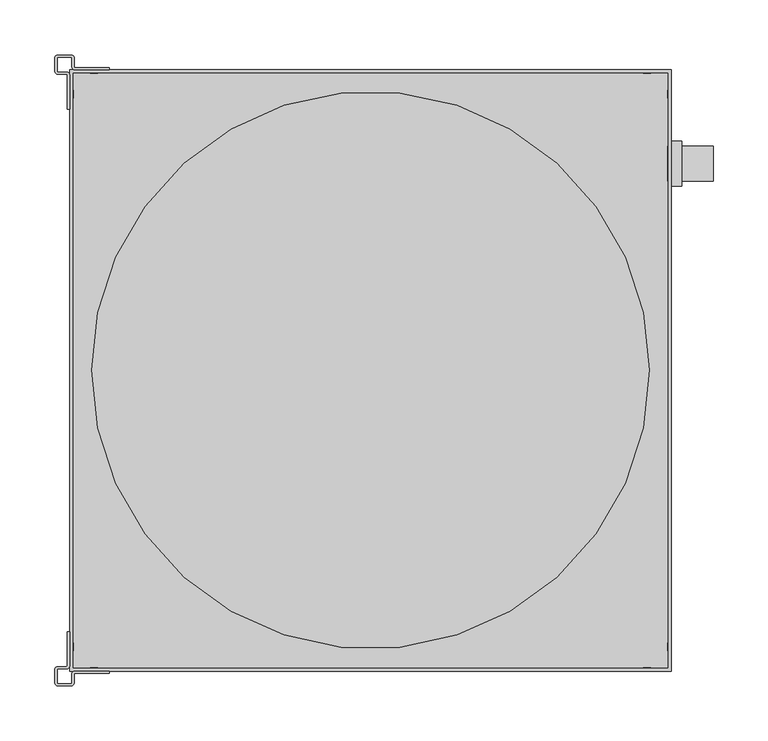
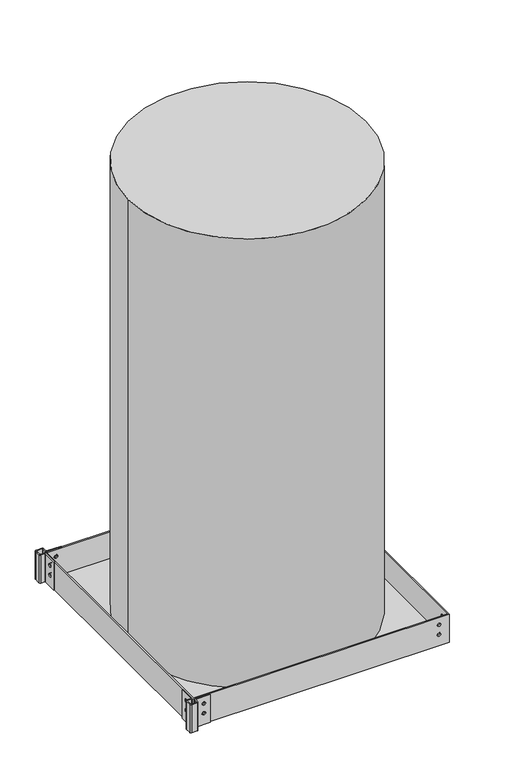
"""IFC4 building model written with IfcOpenShell, lengths in millimetres: proxy geometry."""

from ifc_helpers import new_model, si_unit, point, frame, frame_2d, origin, place, context, project, spatial, polyline, circle_curve, trimmed, segment, composite_curve, outline, extrude, source, transform, mapped, element, save
from ifc_brep_helpers import plane_surface, cylinder_surface, revolved_surface, advanced_brep


def generic_models_3af2dc0f(model_context):
    return source(origin(), model_context, "Body", "SolidModel", [
        advanced_brep(
        [(-276.247225, 1.6764, 63.5), (-277.009225, 0.9144, 63.5), (-284.908625, 0.9144, 63.5), (-287.677225, -1.8542, 63.5), (-287.677225, -13.843, 63.5), (-284.908625, -16.6116, 63.5), (-272.919825, -16.6116, 63.5), (-270.151225, -13.843, 63.5), (-270.151225, -5.9436, 63.5), (-269.389225, -5.1816, 63.5), (-238.248825, -5.1816, 63.5), (-238.248825, -3.175, 63.5), (-269.389225, -3.175, 63.5), (-272.157825, -5.9436, 63.5), (-272.157825, -13.843, 63.5), (-272.919825, -14.605, 63.5), (-284.908625, -14.605, 63.5), (-285.670625, -13.843, 63.5), (-285.670625, -1.8542, 63.5), (-284.908625, -1.0922, 63.5), (-277.009225, -1.0922, 63.5), (-274.240625, 1.6764, 63.5), (-274.240625, 32.8168, 63.5), (-276.247225, 32.8168, 63.5), (-276.247225, 1.6764, 0.0), (-276.247225, 32.8168, 0.0), (-274.240625, 32.8168, 0.0), (-274.240625, 1.6764, 0.0), (-277.009225, -1.0922, 0.0), (-284.908625, -1.0922, 0.0), (-285.670625, -1.8542, 0.0), (-285.670625, -13.843, 0.0), (-284.908625, -14.605, 0.0), (-272.919825, -14.605, 0.0), (-272.157825, -13.843, 0.0), (-272.157825, -5.9436, 0.0), (-269.389225, -3.175, 0.0), (-238.248825, -3.175, 0.0), (-238.248825, -5.1816, 0.0), (-269.389225, -5.1816, 0.0), (-270.151225, -5.9436, 0.0), (-270.151225, -13.843, 0.0), (-272.919825, -16.6116, 0.0), (-284.908625, -16.6116, 0.0), (-287.677225, -13.843, 0.0), (-287.677225, -1.8542, 0.0), (-284.908625, 0.9144, 0.0), (-277.009225, 0.9144, 0.0), (-248.446925, -5.1816, 47.625), (-255.584325, -5.1816, 47.625), (-248.446925, -5.1816, 25.4), (-255.584325, -5.1816, 25.4), (-255.584325, -3.175, 47.625), (-248.446925, -3.175, 47.625), (-255.584325, -3.175, 25.4), (-248.446925, -3.175, 25.4), (-274.240625, 22.6187, 47.625), (-274.240625, 15.4813, 47.625), (-274.240625, 22.6187, 25.4), (-274.240625, 15.4813, 25.4), (-276.247225, 15.4813, 47.625), (-276.247225, 22.6187, 47.625), (-276.247225, 15.4813, 25.4), (-276.247225, 22.6187, 25.4)],
        [
            (0, 1, circle_curve(frame((-277.009225, 1.6764, 63.5), z_axis=(0.0, 0.0, -1.0), x_axis=(1.0, 0.0, 0.0)), 0.762)),
            (1, 2),
            (2, 3, circle_curve(frame((-284.908625, -1.8542, 63.5), z_axis=(0.0, 0.0, 1.0), x_axis=(1.0, 0.0, 0.0)), 2.7686)),
            (3, 4),
            (4, 5, circle_curve(frame((-284.908625, -13.843, 63.5), z_axis=(0.0, 0.0, 1.0), x_axis=(1.0, 0.0, 0.0)), 2.7686)),
            (5, 6),
            (6, 7, circle_curve(frame((-272.919825, -13.843, 63.5), z_axis=(0.0, 0.0, 1.0), x_axis=(1.0, 0.0, 0.0)), 2.7686)),
            (7, 8),
            (8, 9, circle_curve(frame((-269.389225, -5.9436, 63.5), z_axis=(0.0, 0.0, -1.0), x_axis=(1.0, 0.0, 0.0)), 0.762)),
            (9, 10),
            (10, 11),
            (11, 12),
            (12, 13, circle_curve(frame((-269.389225, -5.9436, 63.5), z_axis=(0.0, 0.0, 1.0), x_axis=(1.0, 0.0, 0.0)), 2.7686)),
            (13, 14),
            (14, 15, circle_curve(frame((-272.919825, -13.843, 63.5), z_axis=(0.0, 0.0, -1.0), x_axis=(1.0, 0.0, 0.0)), 0.762)),
            (15, 16),
            (16, 17, circle_curve(frame((-284.908625, -13.843, 63.5), z_axis=(0.0, 0.0, -1.0), x_axis=(1.0, 0.0, 0.0)), 0.762)),
            (17, 18),
            (18, 19, circle_curve(frame((-284.908625, -1.8542, 63.5), z_axis=(0.0, 0.0, -1.0), x_axis=(1.0, 0.0, 0.0)), 0.762)),
            (19, 20),
            (20, 21, circle_curve(frame((-277.009225, 1.6764, 63.5), z_axis=(0.0, 0.0, 1.0), x_axis=(1.0, 0.0, 0.0)), 2.7686)),
            (21, 22),
            (22, 23),
            (23, 0),
            (24, 25),
            (25, 26),
            (26, 27),
            (27, 28, circle_curve(frame((-277.009225, 1.6764, 0.0), z_axis=(0.0, 0.0, -1.0), x_axis=(1.0, 0.0, 0.0)), 2.7686)),
            (28, 29),
            (29, 30, circle_curve(frame((-284.908625, -1.8542, 0.0), z_axis=(0.0, 0.0, 1.0), x_axis=(1.0, 0.0, 0.0)), 0.762)),
            (30, 31),
            (31, 32, circle_curve(frame((-284.908625, -13.843, 0.0), z_axis=(0.0, 0.0, 1.0), x_axis=(1.0, 0.0, 0.0)), 0.762)),
            (32, 33),
            (33, 34, circle_curve(frame((-272.919825, -13.843, 0.0), z_axis=(0.0, 0.0, 1.0), x_axis=(1.0, 0.0, 0.0)), 0.762)),
            (34, 35),
            (35, 36, circle_curve(frame((-269.389225, -5.9436, 0.0), z_axis=(0.0, 0.0, -1.0), x_axis=(1.0, 0.0, 0.0)), 2.7686)),
            (36, 37),
            (37, 38),
            (38, 39),
            (39, 40, circle_curve(frame((-269.389225, -5.9436, 0.0), z_axis=(0.0, 0.0, 1.0), x_axis=(1.0, 0.0, 0.0)), 0.762)),
            (40, 41),
            (41, 42, circle_curve(frame((-272.919825, -13.843, 0.0), z_axis=(0.0, 0.0, -1.0), x_axis=(1.0, 0.0, 0.0)), 2.7686)),
            (42, 43),
            (43, 44, circle_curve(frame((-284.908625, -13.843, 0.0), z_axis=(0.0, 0.0, -1.0), x_axis=(1.0, 0.0, 0.0)), 2.7686)),
            (44, 45),
            (45, 46, circle_curve(frame((-284.908625, -1.8542, 0.0), z_axis=(0.0, 0.0, -1.0), x_axis=(1.0, 0.0, 0.0)), 2.7686)),
            (46, 47),
            (47, 24, circle_curve(frame((-277.009225, 1.6764, 0.0), z_axis=(0.0, 0.0, 1.0), x_axis=(1.0, 0.0, 0.0)), 0.762)),
            (0, 24),
            (47, 1),
            (46, 2),
            (45, 3),
            (44, 4),
            (43, 5),
            (42, 6),
            (41, 7),
            (40, 8),
            (39, 9),
            (38, 10),
            (48, 49, circle_curve(frame((-252.015625, -5.1816, 47.625), z_axis=(0.0, 1.0, 0.0), x_axis=(-1.0, 0.0, 0.0)), 3.5687)),
            (49, 48, circle_curve(frame((-252.015625, -5.1816, 47.625), z_axis=(0.0, 1.0, 0.0), x_axis=(-1.0, 0.0, 0.0)), 3.5687)),
            (50, 51, circle_curve(frame((-252.015625, -5.1816, 25.4), z_axis=(0.0, 1.0, 0.0), x_axis=(-1.0, 0.0, 0.0)), 3.5687)),
            (51, 50, circle_curve(frame((-252.015625, -5.1816, 25.4), z_axis=(0.0, 1.0, 0.0), x_axis=(-1.0, 0.0, 0.0)), 3.5687)),
            (37, 11),
            (36, 12),
            (52, 53, circle_curve(frame((-252.015625, -3.175, 47.625), z_axis=(0.0, -1.0, 0.0), x_axis=(-1.0, 0.0, 0.0)), 3.5687)),
            (53, 52, circle_curve(frame((-252.015625, -3.175, 47.625), z_axis=(0.0, -1.0, 0.0), x_axis=(-1.0, 0.0, 0.0)), 3.5687)),
            (54, 55, circle_curve(frame((-252.015625, -3.175, 25.4), z_axis=(0.0, -1.0, 0.0), x_axis=(-1.0, 0.0, 0.0)), 3.5687)),
            (55, 54, circle_curve(frame((-252.015625, -3.175, 25.4), z_axis=(0.0, -1.0, 0.0), x_axis=(-1.0, 0.0, 0.0)), 3.5687)),
            (35, 13),
            (34, 14),
            (33, 15),
            (32, 16),
            (31, 17),
            (30, 18),
            (29, 19),
            (28, 20),
            (27, 21),
            (26, 22),
            (56, 57, circle_curve(frame((-274.240625, 19.05, 47.625), z_axis=(-1.0, 0.0, 0.0), x_axis=(0.0, -1.0, 0.0)), 3.5687)),
            (57, 56, circle_curve(frame((-274.240625, 19.05, 47.625), z_axis=(-1.0, 0.0, 0.0), x_axis=(0.0, -1.0, 0.0)), 3.5687)),
            (58, 59, circle_curve(frame((-274.240625, 19.05, 25.4), z_axis=(-1.0, 0.0, 0.0), x_axis=(0.0, -1.0, 0.0)), 3.5687)),
            (59, 58, circle_curve(frame((-274.240625, 19.05, 25.4), z_axis=(-1.0, 0.0, 0.0), x_axis=(0.0, -1.0, 0.0)), 3.5687)),
            (25, 23),
            (60, 61, circle_curve(frame((-276.247225, 19.05, 47.625), z_axis=(1.0, 0.0, 0.0), x_axis=(0.0, -1.0, 0.0)), 3.5687)),
            (61, 60, circle_curve(frame((-276.247225, 19.05, 47.625), z_axis=(1.0, 0.0, 0.0), x_axis=(0.0, -1.0, 0.0)), 3.5687)),
            (62, 63, circle_curve(frame((-276.247225, 19.05, 25.4), z_axis=(1.0, 0.0, 0.0), x_axis=(0.0, -1.0, 0.0)), 3.5687)),
            (63, 62, circle_curve(frame((-276.247225, 19.05, 25.4), z_axis=(1.0, 0.0, 0.0), x_axis=(0.0, -1.0, 0.0)), 3.5687)),
            (56, 61),
            (60, 57),
            (58, 63),
            (62, 59),
            (48, 53),
            (52, 49),
            (50, 55),
            (54, 51),
        ],
        [
            plane_surface(frame((-276.247225, 1.6764, 63.5), z_axis=(0.0, 0.0, 1.0), x_axis=(0.0, -1.0, 0.0))),
            plane_surface(frame((-276.247225, 1.6764, 0.0), z_axis=(0.0, 0.0, -1.0), x_axis=(0.0, 1.0, 0.0))),
            revolved_surface(polyline([(-276.247225, 1.6764, 0.0), (-276.247225, 1.6764, 63.5)]), (-277.009225, 1.6764, 0.0), (0.0, 0.0, -1.0)),
            plane_surface(frame((-277.009225, 0.9144, 63.5), z_axis=(0.0, 1.0, 0.0), x_axis=(0.0, 0.0, -1.0))),
            cylinder_surface(frame((-284.908625, -1.8542, 0.0), z_axis=(0.0, 0.0, 1.0), x_axis=(1.0, 0.0, 0.0)), 2.7686),
            plane_surface(frame((-287.677225, -1.8542, 63.5), z_axis=(-1.0, 0.0, 0.0), x_axis=(0.0, 0.0, -1.0))),
            cylinder_surface(frame((-284.908625, -13.843, 0.0), z_axis=(0.0, 0.0, 1.0), x_axis=(1.0, 0.0, 0.0)), 2.7686),
            plane_surface(frame((-284.908625, -16.6116, 63.5), z_axis=(0.0, -1.0, 0.0), x_axis=(0.0, 0.0, -1.0))),
            cylinder_surface(frame((-272.919825, -13.843, 0.0), z_axis=(0.0, 0.0, 1.0), x_axis=(1.0, 0.0, 0.0)), 2.7686),
            plane_surface(frame((-270.151225, -13.843, 63.5), z_axis=(1.0, 0.0, 0.0), x_axis=(0.0, 0.0, -1.0))),
            revolved_surface(polyline([(-268.627225, -5.9436, 0.0), (-268.627225, -5.9436, 63.5)]), (-269.389225, -5.9436, 0.0), (0.0, 0.0, -1.0)),
            plane_surface(frame((-269.389225, -5.1816, 63.5), z_axis=(0.0, -1.0, 0.0), x_axis=(0.0, 0.0, -1.0))),
            plane_surface(frame((-238.248825, -5.1816, 63.5), z_axis=(1.0, 0.0, 0.0), x_axis=(0.0, 0.0, -1.0))),
            plane_surface(frame((-238.248825, -3.175, 63.5), z_axis=(0.0, 1.0, 0.0), x_axis=(0.0, 0.0, -1.0))),
            cylinder_surface(frame((-269.389225, -5.9436, 0.0), z_axis=(0.0, 0.0, 1.0), x_axis=(1.0, 0.0, 0.0)), 2.7686),
            plane_surface(frame((-272.157825, -5.9436, 63.5), z_axis=(-1.0, 0.0, 0.0), x_axis=(0.0, 0.0, -1.0))),
            revolved_surface(polyline([(-272.157825, -13.843, 0.0), (-272.157825, -13.843, 63.5)]), (-272.919825, -13.843, 0.0), (0.0, 0.0, -1.0)),
            plane_surface(frame((-272.919825, -14.605, 63.5), z_axis=(0.0, 1.0, 0.0), x_axis=(0.0, 0.0, -1.0))),
            revolved_surface(polyline([(-284.146625, -13.843, 0.0), (-284.146625, -13.843, 63.5)]), (-284.908625, -13.843, 0.0), (0.0, 0.0, -1.0)),
            plane_surface(frame((-285.670625, -13.843, 63.5), z_axis=(1.0, 0.0, 0.0), x_axis=(0.0, 0.0, -1.0))),
            revolved_surface(polyline([(-284.146625, -1.8542, 0.0), (-284.146625, -1.8542, 63.5)]), (-284.908625, -1.8542, 0.0), (0.0, 0.0, -1.0)),
            plane_surface(frame((-284.908625, -1.0922, 63.5), z_axis=(0.0, -1.0, 0.0), x_axis=(0.0, 0.0, -1.0))),
            cylinder_surface(frame((-277.009225, 1.6764, 0.0), z_axis=(0.0, 0.0, 1.0), x_axis=(1.0, 0.0, 0.0)), 2.7686),
            plane_surface(frame((-274.240625, 1.6764, 63.5), z_axis=(1.0, 0.0, 0.0), x_axis=(0.0, 0.0, -1.0))),
            plane_surface(frame((-274.240625, 32.8168, 63.5), z_axis=(0.0, 1.0, 0.0), x_axis=(0.0, 0.0, -1.0))),
            plane_surface(frame((-276.247225, 32.8168, 63.5), z_axis=(-1.0, 0.0, 0.0), x_axis=(0.0, 0.0, -1.0))),
            revolved_surface(polyline([(-276.247225, 15.481300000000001, 47.625), (-274.240625, 15.481300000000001, 47.625)]), (-271.065625, 19.05, 47.625), (-1.0, 0.0, 0.0)),
            revolved_surface(polyline([(-276.247225, 15.481300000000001, 25.4), (-274.240625, 15.481300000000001, 25.4)]), (-278.914225, 19.05, 25.4), (-1.0, 0.0, 0.0)),
            revolved_surface(polyline([(-255.584325, -3.175, 47.625), (-255.584325, -5.1816, 47.625)]), (-252.015625, -7.8486, 47.625), (0.0, 1.0, 0.0)),
            revolved_surface(polyline([(-255.584325, -3.175, 25.4), (-255.584325, -5.1816, 25.4)]), (-252.015625, -7.8486, 25.4), (0.0, 1.0, 0.0)),
        ],
        [
            (0, [[1, 2, 3, 4, 5, 6, 7, 8, 9, 10, 11, 12, 13, 14, 15, 16, 17, 18, 19, 20, 21, 22, 23, 24]]),
            (1, [[25, 26, 27, 28, 29, 30, 31, 32, 33, 34, 35, 36, 37, 38, 39, 40, 41, 42, 43, 44, 45, 46, 47, 48]]),
            (2, [[-1, 49, -48, 50]]),
            (3, [[-2, -50, -47, 51]]),
            (4, [[-3, -51, -46, 52]]),
            (5, [[-4, -52, -45, 53]]),
            (6, [[-5, -53, -44, 54]]),
            (7, [[-6, -54, -43, 55]]),
            (8, [[-7, -55, -42, 56]]),
            (9, [[-8, -56, -41, 57]]),
            (10, [[-9, -57, -40, 58]]),
            (11, [[-10, -58, -39, 59], [60, 61], [62, 63]]),
            (12, [[-11, -59, -38, 64]]),
            (13, [[-12, -64, -37, 65], [66, 67], [68, 69]]),
            (14, [[-13, -65, -36, 70]]),
            (15, [[-14, -70, -35, 71]]),
            (16, [[-15, -71, -34, 72]]),
            (17, [[-16, -72, -33, 73]]),
            (18, [[-17, -73, -32, 74]]),
            (19, [[-18, -74, -31, 75]]),
            (20, [[-19, -75, -30, 76]]),
            (21, [[-20, -76, -29, 77]]),
            (22, [[-21, -77, -28, 78]]),
            (23, [[-22, -78, -27, 79], [80, 81], [82, 83]]),
            (24, [[-23, -79, -26, 84]]),
            (25, [[-24, -84, -25, -49], [85, 86], [87, 88]]),
            (26, [[89, -85, 90, -80]]),
            (26, [[-89, -81, -90, -86]]),
            (27, [[91, -87, 92, -82]]),
            (27, [[-91, -83, -92, -88]]),
            (28, [[93, -66, 94, -60]]),
            (28, [[-93, -61, -94, -67]]),
            (29, [[95, -68, 96, -62]]),
            (29, [[-95, -63, -96, -69]]),
        ],
    ),
        advanced_brep(
        [(-238.248825, 547.31285, 63.5), (-269.389225, 547.31285, 63.5), (-270.151225, 548.07485, 63.5), (-270.151225, 555.97425, 63.5), (-272.919825, 558.74285, 63.5), (-284.908625, 558.74285, 63.5), (-287.677225, 555.97425, 63.5), (-287.677225, 543.98545, 63.5), (-284.908625, 541.21685, 63.5), (-277.009225, 541.21685, 63.5), (-276.247225, 540.45485, 63.5), (-276.247225, 509.31445, 63.5), (-274.240625, 509.31445, 63.5), (-274.240625, 540.45485, 63.5), (-277.009225, 543.22345, 63.5), (-284.908625, 543.22345, 63.5), (-285.670625, 543.98545, 63.5), (-285.670625, 555.97425, 63.5), (-284.908625, 556.73625, 63.5), (-272.919825, 556.73625, 63.5), (-272.157825, 555.97425, 63.5), (-272.157825, 548.07485, 63.5), (-269.389225, 545.30625, 63.5), (-238.248825, 545.30625, 63.5), (-238.248825, 547.31285, 0.0), (-238.248825, 545.30625, 0.0), (-269.389225, 545.30625, 0.0), (-272.157825, 548.07485, 0.0), (-272.157825, 555.97425, 0.0), (-272.919825, 556.73625, 0.0), (-284.908625, 556.73625, 0.0), (-285.670625, 555.97425, 0.0), (-285.670625, 543.98545, 0.0), (-284.908625, 543.22345, 0.0), (-277.009225, 543.22345, 0.0), (-274.240625, 540.45485, 0.0), (-274.240625, 509.31445, 0.0), (-276.247225, 509.31445, 0.0), (-276.247225, 540.45485, 0.0), (-277.009225, 541.21685, 0.0), (-284.908625, 541.21685, 0.0), (-287.677225, 543.98545, 0.0), (-287.677225, 555.97425, 0.0), (-284.908625, 558.74285, 0.0), (-272.919825, 558.74285, 0.0), (-270.151225, 555.97425, 0.0), (-270.151225, 548.07485, 0.0), (-269.389225, 547.31285, 0.0), (-255.584325, 547.31285, 47.625), (-248.446925, 547.31285, 47.625), (-255.584325, 547.31285, 25.4), (-248.446925, 547.31285, 25.4), (-276.247225, 519.51255, 47.625), (-276.247225, 526.64995, 47.625), (-276.247225, 519.51255, 25.4), (-276.247225, 526.64995, 25.4), (-274.240625, 526.64995, 47.625), (-274.240625, 519.51255, 47.625), (-274.240625, 526.64995, 25.4), (-274.240625, 519.51255, 25.4), (-248.446925, 545.30625, 47.625), (-255.584325, 545.30625, 47.625), (-248.446925, 545.30625, 25.4), (-255.584325, 545.30625, 25.4)],
        [
            (0, 1),
            (1, 2, circle_curve(frame((-269.389225, 548.07485, 63.5), z_axis=(0.0, 0.0, -1.0), x_axis=(1.0, 0.0, 0.0)), 0.762)),
            (2, 3),
            (3, 4, circle_curve(frame((-272.919825, 555.97425, 63.5), z_axis=(0.0, 0.0, 1.0), x_axis=(1.0, 0.0, 0.0)), 2.7686)),
            (4, 5),
            (5, 6, circle_curve(frame((-284.908625, 555.97425, 63.5), z_axis=(0.0, 0.0, 1.0), x_axis=(1.0, 0.0, 0.0)), 2.7686)),
            (6, 7),
            (7, 8, circle_curve(frame((-284.908625, 543.98545, 63.5), z_axis=(0.0, 0.0, 1.0), x_axis=(1.0, 0.0, 0.0)), 2.7686)),
            (8, 9),
            (9, 10, circle_curve(frame((-277.009225, 540.45485, 63.5), z_axis=(0.0, 0.0, -1.0), x_axis=(1.0, 0.0, 0.0)), 0.762)),
            (10, 11),
            (11, 12),
            (12, 13),
            (13, 14, circle_curve(frame((-277.009225, 540.45485, 63.5), z_axis=(0.0, 0.0, 1.0), x_axis=(1.0, 0.0, 0.0)), 2.7686)),
            (14, 15),
            (15, 16, circle_curve(frame((-284.908625, 543.98545, 63.5), z_axis=(0.0, 0.0, -1.0), x_axis=(1.0, 0.0, 0.0)), 0.762)),
            (16, 17),
            (17, 18, circle_curve(frame((-284.908625, 555.97425, 63.5), z_axis=(0.0, 0.0, -1.0), x_axis=(1.0, 0.0, 0.0)), 0.762)),
            (18, 19),
            (19, 20, circle_curve(frame((-272.919825, 555.97425, 63.5), z_axis=(0.0, 0.0, -1.0), x_axis=(1.0, 0.0, 0.0)), 0.762)),
            (20, 21),
            (21, 22, circle_curve(frame((-269.389225, 548.07485, 63.5), z_axis=(0.0, 0.0, 1.0), x_axis=(1.0, 0.0, 0.0)), 2.7686)),
            (22, 23),
            (23, 0),
            (24, 25),
            (25, 26),
            (26, 27, circle_curve(frame((-269.389225, 548.07485, 0.0), z_axis=(0.0, 0.0, -1.0), x_axis=(1.0, 0.0, 0.0)), 2.7686)),
            (27, 28),
            (28, 29, circle_curve(frame((-272.919825, 555.97425, 0.0), z_axis=(0.0, 0.0, 1.0), x_axis=(1.0, 0.0, 0.0)), 0.762)),
            (29, 30),
            (30, 31, circle_curve(frame((-284.908625, 555.97425, 0.0), z_axis=(0.0, 0.0, 1.0), x_axis=(1.0, 0.0, 0.0)), 0.762)),
            (31, 32),
            (32, 33, circle_curve(frame((-284.908625, 543.98545, 0.0), z_axis=(0.0, 0.0, 1.0), x_axis=(1.0, 0.0, 0.0)), 0.762)),
            (33, 34),
            (34, 35, circle_curve(frame((-277.009225, 540.45485, 0.0), z_axis=(0.0, 0.0, -1.0), x_axis=(1.0, 0.0, 0.0)), 2.7686)),
            (35, 36),
            (36, 37),
            (37, 38),
            (38, 39, circle_curve(frame((-277.009225, 540.45485, 0.0), z_axis=(0.0, 0.0, 1.0), x_axis=(1.0, 0.0, 0.0)), 0.762)),
            (39, 40),
            (40, 41, circle_curve(frame((-284.908625, 543.98545, 0.0), z_axis=(0.0, 0.0, -1.0), x_axis=(1.0, 0.0, 0.0)), 2.7686)),
            (41, 42),
            (42, 43, circle_curve(frame((-284.908625, 555.97425, 0.0), z_axis=(0.0, 0.0, -1.0), x_axis=(1.0, 0.0, 0.0)), 2.7686)),
            (43, 44),
            (44, 45, circle_curve(frame((-272.919825, 555.97425, 0.0), z_axis=(0.0, 0.0, -1.0), x_axis=(1.0, 0.0, 0.0)), 2.7686)),
            (45, 46),
            (46, 47, circle_curve(frame((-269.389225, 548.07485, 0.0), z_axis=(0.0, 0.0, 1.0), x_axis=(1.0, 0.0, 0.0)), 0.762)),
            (47, 24),
            (0, 24),
            (47, 1),
            (48, 49, circle_curve(frame((-252.015625, 547.31285, 47.625), z_axis=(0.0, -1.0, 0.0), x_axis=(-1.0, 0.0, 0.0)), 3.5687)),
            (49, 48, circle_curve(frame((-252.015625, 547.31285, 47.625), z_axis=(0.0, -1.0, 0.0), x_axis=(-1.0, 0.0, 0.0)), 3.5687)),
            (50, 51, circle_curve(frame((-252.015625, 547.31285, 25.4), z_axis=(0.0, -1.0, 0.0), x_axis=(-1.0, 0.0, 0.0)), 3.5687)),
            (51, 50, circle_curve(frame((-252.015625, 547.31285, 25.4), z_axis=(0.0, -1.0, 0.0), x_axis=(-1.0, 0.0, 0.0)), 3.5687)),
            (46, 2),
            (45, 3),
            (44, 4),
            (43, 5),
            (42, 6),
            (41, 7),
            (40, 8),
            (39, 9),
            (38, 10),
            (37, 11),
            (52, 53, circle_curve(frame((-276.247225, 523.08125, 47.625), z_axis=(1.0, 0.0, 0.0), x_axis=(0.0, -1.0, 0.0)), 3.5687)),
            (53, 52, circle_curve(frame((-276.247225, 523.08125, 47.625), z_axis=(1.0, 0.0, 0.0), x_axis=(0.0, -1.0, 0.0)), 3.5687)),
            (54, 55, circle_curve(frame((-276.247225, 523.08125, 25.4), z_axis=(1.0, 0.0, 0.0), x_axis=(0.0, -1.0, 0.0)), 3.5687)),
            (55, 54, circle_curve(frame((-276.247225, 523.08125, 25.4), z_axis=(1.0, 0.0, 0.0), x_axis=(0.0, -1.0, 0.0)), 3.5687)),
            (36, 12),
            (35, 13),
            (56, 57, circle_curve(frame((-274.240625, 523.08125, 47.625), z_axis=(-1.0, 0.0, 0.0), x_axis=(0.0, -1.0, 0.0)), 3.5687)),
            (57, 56, circle_curve(frame((-274.240625, 523.08125, 47.625), z_axis=(-1.0, 0.0, 0.0), x_axis=(0.0, -1.0, 0.0)), 3.5687)),
            (58, 59, circle_curve(frame((-274.240625, 523.08125, 25.4), z_axis=(-1.0, 0.0, 0.0), x_axis=(0.0, -1.0, 0.0)), 3.5687)),
            (59, 58, circle_curve(frame((-274.240625, 523.08125, 25.4), z_axis=(-1.0, 0.0, 0.0), x_axis=(0.0, -1.0, 0.0)), 3.5687)),
            (34, 14),
            (33, 15),
            (32, 16),
            (31, 17),
            (30, 18),
            (29, 19),
            (28, 20),
            (27, 21),
            (26, 22),
            (25, 23),
            (60, 61, circle_curve(frame((-252.015625, 545.30625, 47.625), z_axis=(0.0, 1.0, 0.0), x_axis=(-1.0, 0.0, 0.0)), 3.5687)),
            (61, 60, circle_curve(frame((-252.015625, 545.30625, 47.625), z_axis=(0.0, 1.0, 0.0), x_axis=(-1.0, 0.0, 0.0)), 3.5687)),
            (62, 63, circle_curve(frame((-252.015625, 545.30625, 25.4), z_axis=(0.0, 1.0, 0.0), x_axis=(-1.0, 0.0, 0.0)), 3.5687)),
            (63, 62, circle_curve(frame((-252.015625, 545.30625, 25.4), z_axis=(0.0, 1.0, 0.0), x_axis=(-1.0, 0.0, 0.0)), 3.5687)),
            (56, 53),
            (52, 57),
            (58, 55),
            (54, 59),
            (60, 49),
            (48, 61),
            (62, 51),
            (50, 63),
        ],
        [
            plane_surface(frame((-269.389225, 547.31285, 63.5), z_axis=(0.0, 0.0, 1.0), x_axis=(-1.0, 0.0, 0.0))),
            plane_surface(frame((-269.389225, 547.31285, 0.0), z_axis=(0.0, 0.0, -1.0), x_axis=(1.0, 0.0, 0.0))),
            plane_surface(frame((-238.248825, 547.31285, 63.5), z_axis=(0.0, 1.0, 0.0), x_axis=(0.0, 0.0, -1.0))),
            revolved_surface(polyline([(-268.627225, 548.07485, 0.0), (-268.627225, 548.07485, 63.5)]), (-269.389225, 548.07485, 0.0), (0.0, 0.0, -1.0)),
            plane_surface(frame((-270.151225, 548.07485, 63.5), z_axis=(1.0, 0.0, 0.0), x_axis=(0.0, 0.0, -1.0))),
            cylinder_surface(frame((-272.919825, 555.97425, 0.0), z_axis=(0.0, 0.0, 1.0), x_axis=(1.0, 0.0, 0.0)), 2.7686),
            plane_surface(frame((-272.919825, 558.74285, 63.5), z_axis=(0.0, 1.0, 0.0), x_axis=(0.0, 0.0, -1.0))),
            cylinder_surface(frame((-284.908625, 555.97425, 0.0), z_axis=(0.0, 0.0, 1.0), x_axis=(1.0, 0.0, 0.0)), 2.7686),
            plane_surface(frame((-287.677225, 555.97425, 63.5), z_axis=(-1.0, 0.0, 0.0), x_axis=(0.0, 0.0, -1.0))),
            cylinder_surface(frame((-284.908625, 543.98545, 0.0), z_axis=(0.0, 0.0, 1.0), x_axis=(1.0, 0.0, 0.0)), 2.7686),
            plane_surface(frame((-284.908625, 541.21685, 63.5), z_axis=(0.0, -1.0, 0.0), x_axis=(0.0, 0.0, -1.0))),
            revolved_surface(polyline([(-276.247225, 540.45485, 0.0), (-276.247225, 540.45485, 63.5)]), (-277.009225, 540.45485, 0.0), (0.0, 0.0, -1.0)),
            plane_surface(frame((-276.247225, 540.45485, 63.5), z_axis=(-1.0, 0.0, 0.0), x_axis=(0.0, 0.0, -1.0))),
            plane_surface(frame((-276.247225, 509.31445, 63.5), z_axis=(0.0, -1.0, 0.0), x_axis=(0.0, 0.0, -1.0))),
            plane_surface(frame((-274.240625, 509.31445, 63.5), z_axis=(1.0, 0.0, 0.0), x_axis=(0.0, 0.0, -1.0))),
            cylinder_surface(frame((-277.009225, 540.45485, 0.0), z_axis=(0.0, 0.0, 1.0), x_axis=(1.0, 0.0, 0.0)), 2.7686),
            plane_surface(frame((-277.009225, 543.22345, 63.5), z_axis=(0.0, 1.0, 0.0), x_axis=(0.0, 0.0, -1.0))),
            revolved_surface(polyline([(-284.146625, 543.98545, 0.0), (-284.146625, 543.98545, 63.5)]), (-284.908625, 543.98545, 0.0), (0.0, 0.0, -1.0)),
            plane_surface(frame((-285.670625, 543.98545, 63.5), z_axis=(1.0, 0.0, 0.0), x_axis=(0.0, 0.0, -1.0))),
            revolved_surface(polyline([(-284.146625, 555.97425, 0.0), (-284.146625, 555.97425, 63.5)]), (-284.908625, 555.97425, 0.0), (0.0, 0.0, -1.0)),
            plane_surface(frame((-284.908625, 556.73625, 63.5), z_axis=(0.0, -1.0, 0.0), x_axis=(0.0, 0.0, -1.0))),
            revolved_surface(polyline([(-272.157825, 555.97425, 0.0), (-272.157825, 555.97425, 63.5)]), (-272.919825, 555.97425, 0.0), (0.0, 0.0, -1.0)),
            plane_surface(frame((-272.157825, 555.97425, 63.5), z_axis=(-1.0, 0.0, 0.0), x_axis=(0.0, 0.0, -1.0))),
            cylinder_surface(frame((-269.389225, 548.07485, 0.0), z_axis=(0.0, 0.0, 1.0), x_axis=(1.0, 0.0, 0.0)), 2.7686),
            plane_surface(frame((-269.389225, 545.30625, 63.5), z_axis=(0.0, -1.0, 0.0), x_axis=(0.0, 0.0, -1.0))),
            plane_surface(frame((-238.248825, 545.30625, 63.5), z_axis=(1.0, 0.0, 0.0), x_axis=(0.0, 0.0, -1.0))),
            revolved_surface(polyline([(-276.247225, 519.5125499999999, 47.625), (-274.240625, 519.5125499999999, 47.625)]), (-271.065625, 523.08125, 47.625), (-1.0, 0.0, 0.0)),
            revolved_surface(polyline([(-276.247225, 519.5125499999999, 25.4), (-274.240625, 519.5125499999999, 25.4)]), (-278.914225, 523.08125, 25.4), (-1.0, 0.0, 0.0)),
            revolved_surface(polyline([(-255.584325, 547.31285, 47.625), (-255.584325, 545.30625, 47.625)]), (-252.015625, 542.13125, 47.625), (0.0, 1.0, 0.0)),
            revolved_surface(polyline([(-255.584325, 547.31285, 25.4), (-255.584325, 545.30625, 25.4)]), (-252.015625, 549.97985, 25.4), (0.0, 1.0, 0.0)),
        ],
        [
            (0, [[1, 2, 3, 4, 5, 6, 7, 8, 9, 10, 11, 12, 13, 14, 15, 16, 17, 18, 19, 20, 21, 22, 23, 24]]),
            (1, [[25, 26, 27, 28, 29, 30, 31, 32, 33, 34, 35, 36, 37, 38, 39, 40, 41, 42, 43, 44, 45, 46, 47, 48]]),
            (2, [[-1, 49, -48, 50], [51, 52], [53, 54]]),
            (3, [[-2, -50, -47, 55]]),
            (4, [[-3, -55, -46, 56]]),
            (5, [[-4, -56, -45, 57]]),
            (6, [[-5, -57, -44, 58]]),
            (7, [[-6, -58, -43, 59]]),
            (8, [[-7, -59, -42, 60]]),
            (9, [[-8, -60, -41, 61]]),
            (10, [[-9, -61, -40, 62]]),
            (11, [[-10, -62, -39, 63]]),
            (12, [[-11, -63, -38, 64], [65, 66], [67, 68]]),
            (13, [[-12, -64, -37, 69]]),
            (14, [[-13, -69, -36, 70], [71, 72], [73, 74]]),
            (15, [[-14, -70, -35, 75]]),
            (16, [[-15, -75, -34, 76]]),
            (17, [[-16, -76, -33, 77]]),
            (18, [[-17, -77, -32, 78]]),
            (19, [[-18, -78, -31, 79]]),
            (20, [[-19, -79, -30, 80]]),
            (21, [[-20, -80, -29, 81]]),
            (22, [[-21, -81, -28, 82]]),
            (23, [[-22, -82, -27, 83]]),
            (24, [[-23, -83, -26, 84], [85, 86], [87, 88]]),
            (25, [[-24, -84, -25, -49]]),
            (26, [[89, -65, 90, -71]]),
            (26, [[-89, -72, -90, -66]]),
            (27, [[91, -67, 92, -73]]),
            (27, [[-91, -74, -92, -68]]),
            (28, [[93, -51, 94, -85]]),
            (28, [[-93, -86, -94, -52]]),
            (29, [[95, -53, 96, -87]]),
            (29, [[-95, -88, -96, -54]]),
        ],
    ),
        extrude(outline(composite_curve([segment(trimmed(circle_curve(frame_2d((0.0, 271.065625)), 254.0), [point((-254.0, 271.065625))], [point((254.0, 271.065625))], False, "CARTESIAN"), True, "CONTINUOUS"), segment(trimmed(circle_curve(frame_2d((0.0, 271.065625)), 254.0), [point((254.0, 271.065625))], [point((-254.0, 271.065625))], False, "CARTESIAN"), True, "CONTINUOUS")], self_intersect=False)), frame((0.0, 0.0, 3.175), z_axis=(0.0, 0.0, 1.0), x_axis=(1.0, 0.0, 0.0)), (0.0, 0.0, 1.0), 1016.0),
        extrude(outline(composite_curve([segment(trimmed(circle_curve(frame_2d((459.58125, 25.9953125)), 20.6375), [point((438.94375, 25.9953125))], [point((480.21875, 25.9953125))], False, "CARTESIAN"), True, "CONTINUOUS"), segment(trimmed(circle_curve(frame_2d((459.58125, 25.9953125)), 20.6375), [point((480.21875, 25.9953125))], [point((438.94375, 25.9953125))], False, "CARTESIAN"), True, "CONTINUOUS")], self_intersect=False), holes=[composite_curve([segment(trimmed(circle_curve(frame_2d((459.58125, 25.9953125)), 15.875), [point((443.70625, 25.9953125))], [point((475.45625, 25.9953125))], True, "CARTESIAN"), True, "CONTINUOUS"), segment(trimmed(circle_curve(frame_2d((459.58125, 25.9953125)), 15.875), [point((475.45625, 25.9953125))], [point((443.70625, 25.9953125))], True, "CARTESIAN"), True, "CONTINUOUS")], self_intersect=False)]), frame((274.240625, 0.0, 0.0), z_axis=(1.0, 0.0, 0.0), x_axis=(0.0, 1.0, 0.0)), (0.0, 0.0, 1.0), 9.525),
        extrude(outline(composite_curve([segment(trimmed(circle_curve(frame_2d((459.58125, 25.9953125)), 15.875), [point((443.70625, 25.9953125))], [point((475.45625, 25.9953125))], False, "CARTESIAN"), True, "CONTINUOUS"), segment(trimmed(circle_curve(frame_2d((459.58125, 25.9953125)), 15.875), [point((475.45625, 25.9953125))], [point((443.70625, 25.9953125))], False, "CARTESIAN"), True, "CONTINUOUS")], self_intersect=False), holes=[composite_curve([segment(trimmed(circle_curve(frame_2d((459.58125, 25.9953125)), 12.7), [point((446.88125, 25.9953125))], [point((472.28125, 25.9953125))], True, "CARTESIAN"), True, "CONTINUOUS"), segment(trimmed(circle_curve(frame_2d((459.58125, 25.9953125)), 12.7), [point((472.28125, 25.9953125))], [point((446.88125, 25.9953125))], True, "CARTESIAN"), True, "CONTINUOUS")], self_intersect=False)]), frame((271.065625, 0.0, 0.0), z_axis=(1.0, 0.0, 0.0), x_axis=(0.0, 1.0, 0.0)), (0.0, 0.0, 1.0), 41.275),
        advanced_brep(
        [(271.065625, 0.0, 3.175), (271.065625, 542.13125, 3.175), (-271.065625, 542.13125, 3.175), (-271.065625, 0.0, 3.175), (274.240625, -3.175, 63.5), (274.240625, 545.30625, 63.5), (-274.240625, 545.30625, 63.5), (-274.240625, -3.175, 63.5), (271.065625, 542.13125, 63.5), (271.065625, 0.0, 63.5), (-271.065625, 0.0, 63.5), (-271.065625, 542.13125, 63.5), (274.240625, -3.175, 0.0), (-274.240625, -3.175, 0.0), (-274.240625, 545.30625, 0.0), (274.240625, 545.30625, 0.0), (271.065625, 443.70625, 25.9953125), (271.065625, 475.45625, 25.9953125), (271.065625, 15.4813, 47.625), (271.065625, 22.6187, 47.625), (271.065625, 15.4813, 25.4), (271.065625, 22.6187, 25.4), (271.065625, 519.51255, 47.625), (271.065625, 526.64995, 47.625), (271.065625, 519.51255, 25.4), (271.065625, 526.64995, 25.4), (-255.584325, 0.0, 47.625), (-248.446925, 0.0, 47.625), (-255.584325, 0.0, 25.4), (-248.446925, 0.0, 25.4), (248.446925, 0.0, 47.625), (255.584325, 0.0, 47.625), (248.446925, 0.0, 25.4), (255.584325, 0.0, 25.4), (-271.065625, 526.64995, 47.625), (-271.065625, 519.51255, 47.625), (-271.065625, 526.64995, 25.4), (-271.065625, 519.51255, 25.4), (-271.065625, 22.6187, 47.625), (-271.065625, 15.4813, 47.625), (-271.065625, 22.6187, 25.4), (-271.065625, 15.4813, 25.4), (-248.446925, 542.13125, 47.625), (-255.584325, 542.13125, 47.625), (-248.446925, 542.13125, 25.4), (-255.584325, 542.13125, 25.4), (255.584325, 542.13125, 25.4), (248.446925, 542.13125, 25.4), (255.584325, 542.13125, 47.625), (248.446925, 542.13125, 47.625), (274.240625, 475.45625, 25.9953125), (274.240625, 443.70625, 25.9953125), (274.240625, 22.6187, 47.625), (274.240625, 15.4813, 47.625), (274.240625, 22.6187, 25.4), (274.240625, 15.4813, 25.4), (274.240625, 526.64995, 47.625), (274.240625, 519.51255, 47.625), (274.240625, 526.64995, 25.4), (274.240625, 519.51255, 25.4), (-255.584325, 545.30625, 47.625), (-248.446925, 545.30625, 47.625), (-255.584325, 545.30625, 25.4), (-248.446925, 545.30625, 25.4), (248.446925, 545.30625, 25.4), (255.584325, 545.30625, 25.4), (248.446925, 545.30625, 47.625), (255.584325, 545.30625, 47.625), (-274.240625, 519.51255, 47.625), (-274.240625, 526.64995, 47.625), (-274.240625, 519.51255, 25.4), (-274.240625, 526.64995, 25.4), (-274.240625, 15.4813, 47.625), (-274.240625, 22.6187, 47.625), (-274.240625, 15.4813, 25.4), (-274.240625, 22.6187, 25.4), (-248.446925, -3.175, 47.625), (-255.584325, -3.175, 47.625), (-248.446925, -3.175, 25.4), (-255.584325, -3.175, 25.4), (255.584325, -3.175, 47.625), (248.446925, -3.175, 47.625), (255.584325, -3.175, 25.4), (248.446925, -3.175, 25.4)],
        [
            (0, 1),
            (1, 2),
            (2, 3),
            (3, 0),
            (4, 5),
            (5, 6),
            (6, 7),
            (7, 4),
            (8, 9),
            (9, 10),
            (10, 11),
            (11, 8),
            (12, 13),
            (13, 14),
            (14, 15),
            (15, 12),
            (8, 1),
            (0, 9),
            (16, 17, circle_curve(frame((271.065625, 459.58125, 25.9953125), z_axis=(1.0, 0.0, 0.0), x_axis=(0.0, 1.0, 0.0)), 15.875)),
            (17, 16, circle_curve(frame((271.065625, 459.58125, 25.9953125), z_axis=(1.0, 0.0, 0.0), x_axis=(0.0, 1.0, 0.0)), 15.875)),
            (18, 19, circle_curve(frame((271.065625, 19.05, 47.625), z_axis=(1.0, 0.0, 0.0), x_axis=(0.0, -1.0, 0.0)), 3.5687)),
            (19, 18, circle_curve(frame((271.065625, 19.05, 47.625), z_axis=(1.0, 0.0, 0.0), x_axis=(0.0, -1.0, 0.0)), 3.5687)),
            (20, 21, circle_curve(frame((271.065625, 19.05, 25.4), z_axis=(1.0, 0.0, 0.0), x_axis=(0.0, -1.0, 0.0)), 3.5687)),
            (21, 20, circle_curve(frame((271.065625, 19.05, 25.4), z_axis=(1.0, 0.0, 0.0), x_axis=(0.0, -1.0, 0.0)), 3.5687)),
            (22, 23, circle_curve(frame((271.065625, 523.08125, 47.625), z_axis=(1.0, 0.0, 0.0), x_axis=(0.0, -1.0, 0.0)), 3.5687)),
            (23, 22, circle_curve(frame((271.065625, 523.08125, 47.625), z_axis=(1.0, 0.0, 0.0), x_axis=(0.0, -1.0, 0.0)), 3.5687)),
            (24, 25, circle_curve(frame((271.065625, 523.08125, 25.4), z_axis=(1.0, 0.0, 0.0), x_axis=(0.0, -1.0, 0.0)), 3.5687)),
            (25, 24, circle_curve(frame((271.065625, 523.08125, 25.4), z_axis=(1.0, 0.0, 0.0), x_axis=(0.0, -1.0, 0.0)), 3.5687)),
            (3, 10),
            (26, 27, circle_curve(frame((-252.015625, 0.0, 47.625), z_axis=(0.0, -1.0, 0.0), x_axis=(-1.0, 0.0, 0.0)), 3.5687)),
            (27, 26, circle_curve(frame((-252.015625, 0.0, 47.625), z_axis=(0.0, -1.0, 0.0), x_axis=(-1.0, 0.0, 0.0)), 3.5687)),
            (28, 29, circle_curve(frame((-252.015625, 0.0, 25.4), z_axis=(0.0, -1.0, 0.0), x_axis=(-1.0, 0.0, 0.0)), 3.5687)),
            (29, 28, circle_curve(frame((-252.015625, 0.0, 25.4), z_axis=(0.0, -1.0, 0.0), x_axis=(-1.0, 0.0, 0.0)), 3.5687)),
            (30, 31, circle_curve(frame((252.015625, 0.0, 47.625), z_axis=(0.0, -1.0, 0.0), x_axis=(-1.0, 0.0, 0.0)), 3.5687)),
            (31, 30, circle_curve(frame((252.015625, 0.0, 47.625), z_axis=(0.0, -1.0, 0.0), x_axis=(-1.0, 0.0, 0.0)), 3.5687)),
            (32, 33, circle_curve(frame((252.015625, 0.0, 25.4), z_axis=(0.0, -1.0, 0.0), x_axis=(-1.0, 0.0, 0.0)), 3.5687)),
            (33, 32, circle_curve(frame((252.015625, 0.0, 25.4), z_axis=(0.0, -1.0, 0.0), x_axis=(-1.0, 0.0, 0.0)), 3.5687)),
            (2, 11),
            (34, 35, circle_curve(frame((-271.065625, 523.08125, 47.625), z_axis=(-1.0, 0.0, 0.0), x_axis=(0.0, -1.0, 0.0)), 3.5687)),
            (35, 34, circle_curve(frame((-271.065625, 523.08125, 47.625), z_axis=(-1.0, 0.0, 0.0), x_axis=(0.0, -1.0, 0.0)), 3.5687)),
            (36, 37, circle_curve(frame((-271.065625, 523.08125, 25.4), z_axis=(-1.0, 0.0, 0.0), x_axis=(0.0, -1.0, 0.0)), 3.5687)),
            (37, 36, circle_curve(frame((-271.065625, 523.08125, 25.4), z_axis=(-1.0, 0.0, 0.0), x_axis=(0.0, -1.0, 0.0)), 3.5687)),
            (38, 39, circle_curve(frame((-271.065625, 19.05, 47.625), z_axis=(-1.0, 0.0, 0.0), x_axis=(0.0, -1.0, 0.0)), 3.5687)),
            (39, 38, circle_curve(frame((-271.065625, 19.05, 47.625), z_axis=(-1.0, 0.0, 0.0), x_axis=(0.0, -1.0, 0.0)), 3.5687)),
            (40, 41, circle_curve(frame((-271.065625, 19.05, 25.4), z_axis=(-1.0, 0.0, 0.0), x_axis=(0.0, -1.0, 0.0)), 3.5687)),
            (41, 40, circle_curve(frame((-271.065625, 19.05, 25.4), z_axis=(-1.0, 0.0, 0.0), x_axis=(0.0, -1.0, 0.0)), 3.5687)),
            (42, 43, circle_curve(frame((-252.015625, 542.13125, 47.625), z_axis=(0.0, 1.0, 0.0), x_axis=(-1.0, 0.0, 0.0)), 3.5687)),
            (43, 42, circle_curve(frame((-252.015625, 542.13125, 47.625), z_axis=(0.0, 1.0, 0.0), x_axis=(-1.0, 0.0, 0.0)), 3.5687)),
            (44, 45, circle_curve(frame((-252.015625, 542.13125, 25.4), z_axis=(0.0, 1.0, 0.0), x_axis=(-1.0, 0.0, 0.0)), 3.5687)),
            (45, 44, circle_curve(frame((-252.015625, 542.13125, 25.4), z_axis=(0.0, 1.0, 0.0), x_axis=(-1.0, 0.0, 0.0)), 3.5687)),
            (46, 47, circle_curve(frame((252.015625, 542.13125, 25.4), z_axis=(0.0, 1.0, 0.0), x_axis=(-1.0, 0.0, 0.0)), 3.5687)),
            (47, 46, circle_curve(frame((252.015625, 542.13125, 25.4), z_axis=(0.0, 1.0, 0.0), x_axis=(-1.0, 0.0, 0.0)), 3.5687)),
            (48, 49, circle_curve(frame((252.015625, 542.13125, 47.625), z_axis=(0.0, 1.0, 0.0), x_axis=(-1.0, 0.0, 0.0)), 3.5687)),
            (49, 48, circle_curve(frame((252.015625, 542.13125, 47.625), z_axis=(0.0, 1.0, 0.0), x_axis=(-1.0, 0.0, 0.0)), 3.5687)),
            (4, 12),
            (15, 5),
            (50, 51, circle_curve(frame((274.240625, 459.58125, 25.9953125), z_axis=(-1.0, 0.0, 0.0), x_axis=(0.0, 1.0, 0.0)), 15.875)),
            (51, 50, circle_curve(frame((274.240625, 459.58125, 25.9953125), z_axis=(-1.0, 0.0, 0.0), x_axis=(0.0, 1.0, 0.0)), 15.875)),
            (52, 53, circle_curve(frame((274.240625, 19.05, 47.625), z_axis=(-1.0, 0.0, 0.0), x_axis=(0.0, -1.0, 0.0)), 3.5687)),
            (53, 52, circle_curve(frame((274.240625, 19.05, 47.625), z_axis=(-1.0, 0.0, 0.0), x_axis=(0.0, -1.0, 0.0)), 3.5687)),
            (54, 55, circle_curve(frame((274.240625, 19.05, 25.4), z_axis=(-1.0, 0.0, 0.0), x_axis=(0.0, -1.0, 0.0)), 3.5687)),
            (55, 54, circle_curve(frame((274.240625, 19.05, 25.4), z_axis=(-1.0, 0.0, 0.0), x_axis=(0.0, -1.0, 0.0)), 3.5687)),
            (56, 57, circle_curve(frame((274.240625, 523.08125, 47.625), z_axis=(-1.0, 0.0, 0.0), x_axis=(0.0, -1.0, 0.0)), 3.5687)),
            (57, 56, circle_curve(frame((274.240625, 523.08125, 47.625), z_axis=(-1.0, 0.0, 0.0), x_axis=(0.0, -1.0, 0.0)), 3.5687)),
            (58, 59, circle_curve(frame((274.240625, 523.08125, 25.4), z_axis=(-1.0, 0.0, 0.0), x_axis=(0.0, -1.0, 0.0)), 3.5687)),
            (59, 58, circle_curve(frame((274.240625, 523.08125, 25.4), z_axis=(-1.0, 0.0, 0.0), x_axis=(0.0, -1.0, 0.0)), 3.5687)),
            (14, 6),
            (60, 61, circle_curve(frame((-252.015625, 545.30625, 47.625), z_axis=(0.0, -1.0, 0.0), x_axis=(-1.0, 0.0, 0.0)), 3.5687)),
            (61, 60, circle_curve(frame((-252.015625, 545.30625, 47.625), z_axis=(0.0, -1.0, 0.0), x_axis=(-1.0, 0.0, 0.0)), 3.5687)),
            (62, 63, circle_curve(frame((-252.015625, 545.30625, 25.4), z_axis=(0.0, -1.0, 0.0), x_axis=(-1.0, 0.0, 0.0)), 3.5687)),
            (63, 62, circle_curve(frame((-252.015625, 545.30625, 25.4), z_axis=(0.0, -1.0, 0.0), x_axis=(-1.0, 0.0, 0.0)), 3.5687)),
            (64, 65, circle_curve(frame((252.015625, 545.30625, 25.4), z_axis=(0.0, -1.0, 0.0), x_axis=(-1.0, 0.0, 0.0)), 3.5687)),
            (65, 64, circle_curve(frame((252.015625, 545.30625, 25.4), z_axis=(0.0, -1.0, 0.0), x_axis=(-1.0, 0.0, 0.0)), 3.5687)),
            (66, 67, circle_curve(frame((252.015625, 545.30625, 47.625), z_axis=(0.0, -1.0, 0.0), x_axis=(-1.0, 0.0, 0.0)), 3.5687)),
            (67, 66, circle_curve(frame((252.015625, 545.30625, 47.625), z_axis=(0.0, -1.0, 0.0), x_axis=(-1.0, 0.0, 0.0)), 3.5687)),
            (13, 7),
            (68, 69, circle_curve(frame((-274.240625, 523.08125, 47.625), z_axis=(1.0, 0.0, 0.0), x_axis=(0.0, -1.0, 0.0)), 3.5687)),
            (69, 68, circle_curve(frame((-274.240625, 523.08125, 47.625), z_axis=(1.0, 0.0, 0.0), x_axis=(0.0, -1.0, 0.0)), 3.5687)),
            (70, 71, circle_curve(frame((-274.240625, 523.08125, 25.4), z_axis=(1.0, 0.0, 0.0), x_axis=(0.0, -1.0, 0.0)), 3.5687)),
            (71, 70, circle_curve(frame((-274.240625, 523.08125, 25.4), z_axis=(1.0, 0.0, 0.0), x_axis=(0.0, -1.0, 0.0)), 3.5687)),
            (72, 73, circle_curve(frame((-274.240625, 19.05, 47.625), z_axis=(1.0, 0.0, 0.0), x_axis=(0.0, -1.0, 0.0)), 3.5687)),
            (73, 72, circle_curve(frame((-274.240625, 19.05, 47.625), z_axis=(1.0, 0.0, 0.0), x_axis=(0.0, -1.0, 0.0)), 3.5687)),
            (74, 75, circle_curve(frame((-274.240625, 19.05, 25.4), z_axis=(1.0, 0.0, 0.0), x_axis=(0.0, -1.0, 0.0)), 3.5687)),
            (75, 74, circle_curve(frame((-274.240625, 19.05, 25.4), z_axis=(1.0, 0.0, 0.0), x_axis=(0.0, -1.0, 0.0)), 3.5687)),
            (76, 77, circle_curve(frame((-252.015625, -3.175, 47.625), z_axis=(0.0, 1.0, 0.0), x_axis=(-1.0, 0.0, 0.0)), 3.5687)),
            (77, 76, circle_curve(frame((-252.015625, -3.175, 47.625), z_axis=(0.0, 1.0, 0.0), x_axis=(-1.0, 0.0, 0.0)), 3.5687)),
            (78, 79, circle_curve(frame((-252.015625, -3.175, 25.4), z_axis=(0.0, 1.0, 0.0), x_axis=(-1.0, 0.0, 0.0)), 3.5687)),
            (79, 78, circle_curve(frame((-252.015625, -3.175, 25.4), z_axis=(0.0, 1.0, 0.0), x_axis=(-1.0, 0.0, 0.0)), 3.5687)),
            (80, 81, circle_curve(frame((252.015625, -3.175, 47.625), z_axis=(0.0, 1.0, 0.0), x_axis=(-1.0, 0.0, 0.0)), 3.5687)),
            (81, 80, circle_curve(frame((252.015625, -3.175, 47.625), z_axis=(0.0, 1.0, 0.0), x_axis=(-1.0, 0.0, 0.0)), 3.5687)),
            (82, 83, circle_curve(frame((252.015625, -3.175, 25.4), z_axis=(0.0, 1.0, 0.0), x_axis=(-1.0, 0.0, 0.0)), 3.5687)),
            (83, 82, circle_curve(frame((252.015625, -3.175, 25.4), z_axis=(0.0, 1.0, 0.0), x_axis=(-1.0, 0.0, 0.0)), 3.5687)),
            (16, 51),
            (50, 17),
            (34, 69),
            (68, 35),
            (36, 71),
            (70, 37),
            (38, 73),
            (72, 39),
            (40, 75),
            (74, 41),
            (76, 27),
            (26, 77),
            (78, 29),
            (28, 79),
            (80, 31),
            (30, 81),
            (82, 33),
            (32, 83),
            (52, 19),
            (18, 53),
            (54, 21),
            (20, 55),
            (56, 23),
            (22, 57),
            (58, 25),
            (24, 59),
            (42, 61),
            (60, 43),
            (44, 63),
            (62, 45),
            (46, 65),
            (64, 47),
            (48, 67),
            (66, 49),
        ],
        [
            plane_surface(frame((-271.065625, 542.13125, 3.175), z_axis=(0.0, 0.0, 1.0), x_axis=(-1.0, 0.0, 0.0))),
            plane_surface(frame((271.065625, 542.13125, 63.5), z_axis=(0.0, 0.0, 1.0), x_axis=(0.0, -1.0, 0.0))),
            plane_surface(frame((271.065625, 542.13125, 0.0), z_axis=(0.0, 0.0, -1.0), x_axis=(0.0, 1.0, 0.0))),
            plane_surface(frame((271.065625, 542.13125, 63.5), z_axis=(-1.0, 0.0, 0.0), x_axis=(0.0, 0.0, -1.0))),
            plane_surface(frame((271.065625, 0.0, 63.5), z_axis=(0.0, 1.0, 0.0), x_axis=(0.0, 0.0, -1.0))),
            plane_surface(frame((-271.065625, 0.0, 63.5), z_axis=(1.0, 0.0, 0.0), x_axis=(0.0, 0.0, -1.0))),
            plane_surface(frame((-271.065625, 542.13125, 63.5), z_axis=(0.0, -1.0, 0.0), x_axis=(0.0, 0.0, -1.0))),
            plane_surface(frame((274.240625, -3.175, 63.5), z_axis=(1.0, 0.0, 0.0), x_axis=(0.0, 0.0, -1.0))),
            plane_surface(frame((274.240625, 545.30625, 63.5), z_axis=(0.0, 1.0, 0.0), x_axis=(0.0, 0.0, -1.0))),
            plane_surface(frame((-274.240625, 545.30625, 63.5), z_axis=(-1.0, 0.0, 0.0), x_axis=(0.0, 0.0, -1.0))),
            plane_surface(frame((-274.240625, -3.175, 63.5), z_axis=(0.0, -1.0, 0.0), x_axis=(0.0, 0.0, -1.0))),
            revolved_surface(polyline([(274.240625, 475.45625, 25.9953125), (271.065625, 475.45625, 25.9953125)]), (271.065625, 459.58125, 25.9953125), (1.0, 0.0, 0.0)),
            revolved_surface(polyline([(-274.240625, 519.5125499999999, 47.625), (-271.065625, 519.5125499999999, 47.625)]), (-271.065625, 523.08125, 47.625), (-1.0, 0.0, 0.0)),
            revolved_surface(polyline([(-274.240625, 519.5125499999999, 25.4), (-271.065625, 519.5125499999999, 25.4)]), (-278.914225, 523.08125, 25.4), (-1.0, 0.0, 0.0)),
            revolved_surface(polyline([(-274.240625, 15.481300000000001, 47.625), (-271.065625, 15.481300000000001, 47.625)]), (-271.065625, 19.05, 47.625), (-1.0, 0.0, 0.0)),
            revolved_surface(polyline([(-274.240625, 15.481300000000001, 25.4), (-271.065625, 15.481300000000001, 25.4)]), (-278.914225, 19.05, 25.4), (-1.0, 0.0, 0.0)),
            revolved_surface(polyline([(-255.584325, 0.0, 47.625), (-255.584325, -3.175, 47.625)]), (-252.015625, -7.8486, 47.625), (0.0, 1.0, 0.0)),
            revolved_surface(polyline([(-255.584325, 0.0, 25.4), (-255.584325, -3.175, 25.4)]), (-252.015625, -7.8486, 25.4), (0.0, 1.0, 0.0)),
            revolved_surface(polyline([(248.446925, 0.0, 47.625), (248.446925, -3.175, 47.625)]), (252.015625, -7.8486, 47.625), (0.0, 1.0, 0.0)),
            revolved_surface(polyline([(248.446925, 0.0, 25.4), (248.446925, -3.175, 25.4)]), (252.015625, -7.8486, 25.4), (0.0, 1.0, 0.0)),
            revolved_surface(polyline([(271.065625, 15.481300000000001, 47.625), (274.240625, 15.481300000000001, 47.625)]), (278.914225, 19.05, 47.625), (-1.0, 0.0, 0.0)),
            revolved_surface(polyline([(271.065625, 15.481300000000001, 25.4), (274.240625, 15.481300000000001, 25.4)]), (278.914225, 19.05, 25.4), (-1.0, 0.0, 0.0)),
            revolved_surface(polyline([(271.065625, 519.5125499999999, 47.625), (274.240625, 519.5125499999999, 47.625)]), (278.914225, 523.08125, 47.625), (-1.0, 0.0, 0.0)),
            revolved_surface(polyline([(271.065625, 519.5125499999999, 25.4), (274.240625, 519.5125499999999, 25.4)]), (278.914225, 523.08125, 25.4), (-1.0, 0.0, 0.0)),
            revolved_surface(polyline([(-255.584325, 545.30625, 47.625), (-255.584325, 542.13125, 47.625)]), (-252.015625, 542.13125, 47.625), (0.0, 1.0, 0.0)),
            revolved_surface(polyline([(-255.584325, 545.30625, 25.4), (-255.584325, 542.13125, 25.4)]), (-252.015625, 549.97985, 25.4), (0.0, 1.0, 0.0)),
            revolved_surface(polyline([(248.446925, 545.30625, 25.4), (248.446925, 542.13125, 25.4)]), (252.015625, 542.13125, 25.4), (0.0, 1.0, 0.0)),
            revolved_surface(polyline([(248.446925, 545.30625, 47.625), (248.446925, 542.13125, 47.625)]), (252.015625, 549.97985, 47.625), (0.0, 1.0, 0.0)),
        ],
        [
            (0, [[1, 2, 3, 4]]),
            (1, [[5, 6, 7, 8], [9, 10, 11, 12]]),
            (2, [[13, 14, 15, 16]]),
            (3, [[-9, 17, -1, 18], [19, 20], [21, 22], [23, 24], [25, 26], [27, 28]]),
            (4, [[-10, -18, -4, 29], [30, 31], [32, 33], [34, 35], [36, 37]]),
            (5, [[-11, -29, -3, 38], [39, 40], [41, 42], [43, 44], [45, 46]]),
            (6, [[-12, -38, -2, -17], [47, 48], [49, 50], [51, 52], [53, 54]]),
            (7, [[-5, 55, -16, 56], [57, 58], [59, 60], [61, 62], [63, 64], [65, 66]]),
            (8, [[-6, -56, -15, 67], [68, 69], [70, 71], [72, 73], [74, 75]]),
            (9, [[-7, -67, -14, 76], [77, 78], [79, 80], [81, 82], [83, 84]]),
            (10, [[-8, -76, -13, -55], [85, 86], [87, 88], [89, 90], [91, 92]]),
            (11, [[93, -57, 94, -19]]),
            (11, [[-93, -20, -94, -58]]),
            (12, [[95, -77, 96, -39]]),
            (12, [[-95, -40, -96, -78]]),
            (13, [[97, -79, 98, -41]]),
            (13, [[-97, -42, -98, -80]]),
            (14, [[99, -81, 100, -43]]),
            (14, [[-99, -44, -100, -82]]),
            (15, [[101, -83, 102, -45]]),
            (15, [[-101, -46, -102, -84]]),
            (16, [[103, -30, 104, -85]]),
            (16, [[-103, -86, -104, -31]]),
            (17, [[105, -32, 106, -87]]),
            (17, [[-105, -88, -106, -33]]),
            (18, [[107, -34, 108, -89]]),
            (18, [[-107, -90, -108, -35]]),
            (19, [[109, -36, 110, -91]]),
            (19, [[-109, -92, -110, -37]]),
            (20, [[111, -21, 112, -59]]),
            (20, [[-111, -60, -112, -22]]),
            (21, [[113, -23, 114, -61]]),
            (21, [[-113, -62, -114, -24]]),
            (22, [[115, -25, 116, -63]]),
            (22, [[-115, -64, -116, -26]]),
            (23, [[117, -27, 118, -65]]),
            (23, [[-117, -66, -118, -28]]),
            (24, [[119, -68, 120, -47]]),
            (24, [[-119, -48, -120, -69]]),
            (25, [[121, -70, 122, -49]]),
            (25, [[-121, -50, -122, -71]]),
            (26, [[123, -72, 124, -51]]),
            (26, [[-123, -52, -124, -73]]),
            (27, [[125, -74, 126, -53]]),
            (27, [[-125, -54, -126, -75]]),
        ],
    ),
    ])


if __name__ == "__main__":
    model = new_model("IFC4")
    model_context = context("Model", 3, world=origin())
    ifc_project = project(units=[si_unit("LENGTHUNIT", "METRE", prefix="MILLI")], contexts=[model_context])
    site = spatial("IfcSite", under=ifc_project)
    building = spatial("IfcBuilding", under=site)
    placement = place(None, origin())
    generic_models_shape = generic_models_3af2dc0f(model_context)
    element("IfcBuildingElementProxy", 1, Name="Generic Models", at=placement, inside=building, context=model_context, shape_type="MappedRepresentation", body=[
        mapped(generic_models_shape, transform((0.0, 0.0, 0.0), x_axis=(1.0, 0.0, 0.0), y_axis=(0.0, 1.0, 0.0), z_axis=(0.0, 0.0, 1.0))),
    ])
    save(model, "model.ifc")
